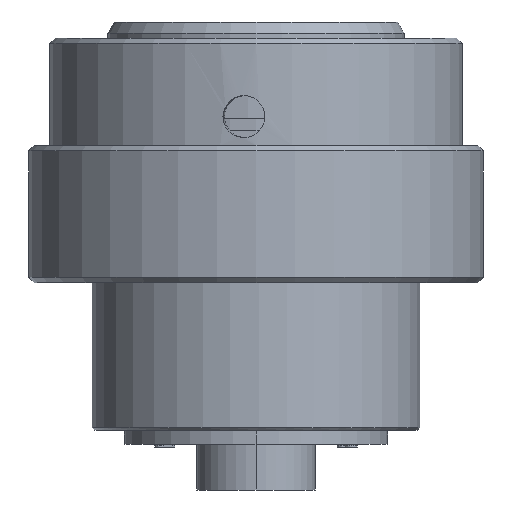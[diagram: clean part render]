
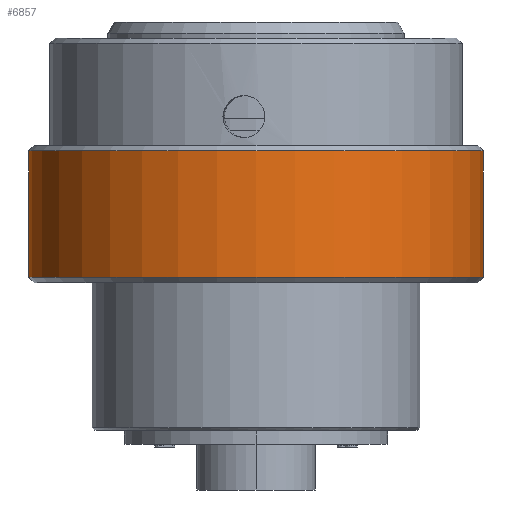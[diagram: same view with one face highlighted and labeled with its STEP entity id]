
A CAD part, left-side view. The second image highlights one B-rep face of the part: STEP entity #6857.
In plain terms, the highlighted cylindrical face has radius 21.488 mm (diameter 42.977 mm), a partial arc.
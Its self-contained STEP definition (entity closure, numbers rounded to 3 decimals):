
#202=DIRECTION('',(0.,0.,1.));
#203=VECTOR('',#202,11.938);
#204=CARTESIAN_POINT('',(0.,21.488,-22.606));
#205=LINE('',#204,#203);
#206=DIRECTION('',(0.,0.,1.));
#207=VECTOR('',#206,11.938);
#208=CARTESIAN_POINT('',(0.,-21.488,-22.606));
#209=LINE('',#208,#207);
#210=CARTESIAN_POINT('',(0.,0.,-22.606));
#211=DIRECTION('',(0.,0.,1.));
#212=DIRECTION('',(0.,1.,0.));
#213=AXIS2_PLACEMENT_3D('',#210,#211,#212);
#223=CARTESIAN_POINT('',(0.,0.,-10.668));
#224=DIRECTION('',(0.,0.,1.));
#225=DIRECTION('',(0.,1.,0.));
#226=AXIS2_PLACEMENT_3D('',#223,#224,#225);
#5560=CARTESIAN_POINT('',(0.,21.488,-22.606));
#5562=VERTEX_POINT('',#5560);
#5563=CARTESIAN_POINT('',(0.,21.488,-10.668));
#5564=VERTEX_POINT('',#5563);
#5568=CARTESIAN_POINT('',(0.,-21.488,-22.606));
#5570=VERTEX_POINT('',#5568);
#5571=CARTESIAN_POINT('',(0.,-21.488,-10.668));
#5572=VERTEX_POINT('',#5571);
#6845=CARTESIAN_POINT('',(0.,0.,1.156));
#6846=DIRECTION('',(0.,0.,-1.));
#6847=DIRECTION('',(0.,-1.,0.));
#6848=AXIS2_PLACEMENT_3D('',#6845,#6846,#6847);
#6849=CYLINDRICAL_SURFACE('',#6848,21.488);
#6850=ORIENTED_EDGE('',*,*,#6835,.T.);
#6852=ORIENTED_EDGE('',*,*,#6851,.T.);
#6853=ORIENTED_EDGE('',*,*,#6838,.F.);
#6854=ORIENTED_EDGE('',*,*,#6809,.F.);
#6855=EDGE_LOOP('',(#6850,#6852,#6853,#6854));
#6856=FACE_OUTER_BOUND('',#6855,.F.);
#6857=ADVANCED_FACE('',(#6856),#6849,.T.);
#214=CIRCLE('',#213,21.488);
#227=CIRCLE('',#226,21.488);
#6809=EDGE_CURVE('',#5562,#5570,#214,.T.);
#6835=EDGE_CURVE('',#5562,#5564,#205,.T.);
#6838=EDGE_CURVE('',#5570,#5572,#209,.T.);
#6851=EDGE_CURVE('',#5564,#5572,#227,.T.);
